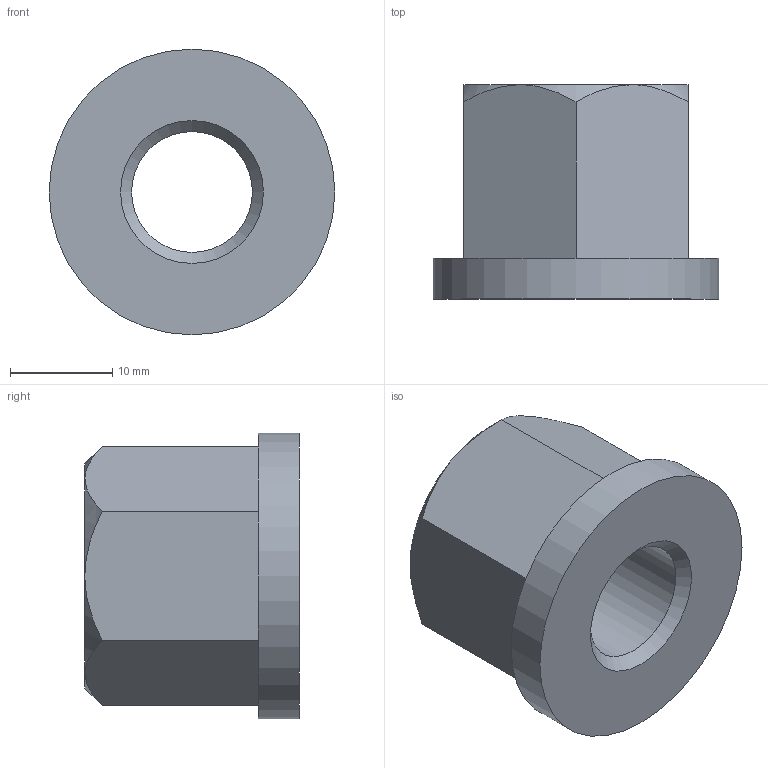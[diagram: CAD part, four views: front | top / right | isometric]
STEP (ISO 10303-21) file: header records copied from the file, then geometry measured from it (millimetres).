
FILE_DESCRIPTION( ( 'STEP AP203' ), '1' );
FILE_NAME( 'C:/Temp/Ganter_Step_05_03_2020/data/3_2/din6331/Hexagon nut DIN 6331-M14.stp', '2020-03-13T05:16:16', ( 'License CC BY-ND 4.0' ), ( 'CADENAS' ), ' ', 'PARTsolutions', ' ' );
FILE_SCHEMA( ( 'CONFIG_CONTROL_DESIGN' ) );
Length unit declared in the file: millimetre
Products named in the file (1): _Hexagon nut DIN 6331-M14
Bounding box: 28 x 21 x 28 mm (x, y, z)
Volume: 7212.2 mm3; surface area: 3367.3 mm2
Topology: 1 solids, 1 shells, 19 faces, 41 edges, 25 vertices
Faces by surface type: plane 9, cone 8, cylinder 2
Full cylindrical faces by diameter (mm): 11.835 x1, 28 x1
Entity records: 590 total; most frequent: CARTESIAN_POINT 164, DIRECTION 76, ORIENTED_EDGE 72, EDGE_CURVE 36, AXIS2_PLACEMENT_3D 32, EDGE_LOOP 26, VERTEX_POINT 24, FACE_OUTER_BOUND 21
